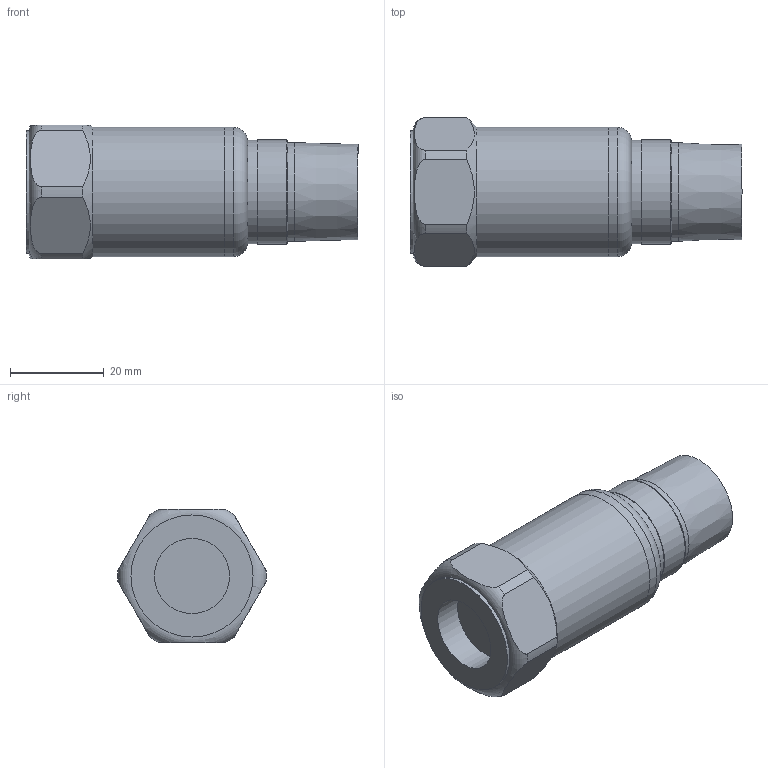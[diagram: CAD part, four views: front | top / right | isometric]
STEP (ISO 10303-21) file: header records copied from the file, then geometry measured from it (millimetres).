
FILE_DESCRIPTION(/* description */ (''),/* implementation_level */ '2;1');
FILE_NAME(/* name */ 'Z:\Engineering\Drawings\3D Library\Assemblies\Website\420 Velocity Top\HS-420XXX1205.stp',/* time_stamp */ '2023-05-03T13:52:30+01:00',/* author */ ('Ricardo.Peneda'),/* organization */ (''),/* preprocessor_version */ 'ST-DEVELOPER v18.1',/* originating_system */ 'Autodesk Inventor 2021',/* authorisation */ '');
FILE_SCHEMA (('AUTOMOTIVE_DESIGN { 1 0 10303 214 3 1 1 }'));
Length unit declared in the file: inch
Products named in the file (1): HS-420XXX1205_Shrinkwrap_1
Bounding box: 70.7 x 31.69 x 28.5 mm (x, y, z)
Volume: 16732 mm3; surface area: 12357.9 mm2
Topology: 3 solids, 3 shells, 51 faces, 137 edges, 100 vertices
Faces by surface type: cylinder 21, plane 20, cone 6, torus 4
Full cylindrical faces by diameter (mm): 3.241 x1, 14 x1, 16 x1, 18 x1, 19.95 x1, 20 x1, 21 x1, 22 x1, 22.2 x1, 23.3 x1, 25.3 x2, 26 x1, 27.5 x2
Entity records: 1900 total; most frequent: CARTESIAN_POINT 435, DIRECTION 317, ORIENTED_EDGE 274, AXIS2_PLACEMENT_3D 142, EDGE_CURVE 137, VERTEX_POINT 100, CIRCLE 90, EDGE_LOOP 63
